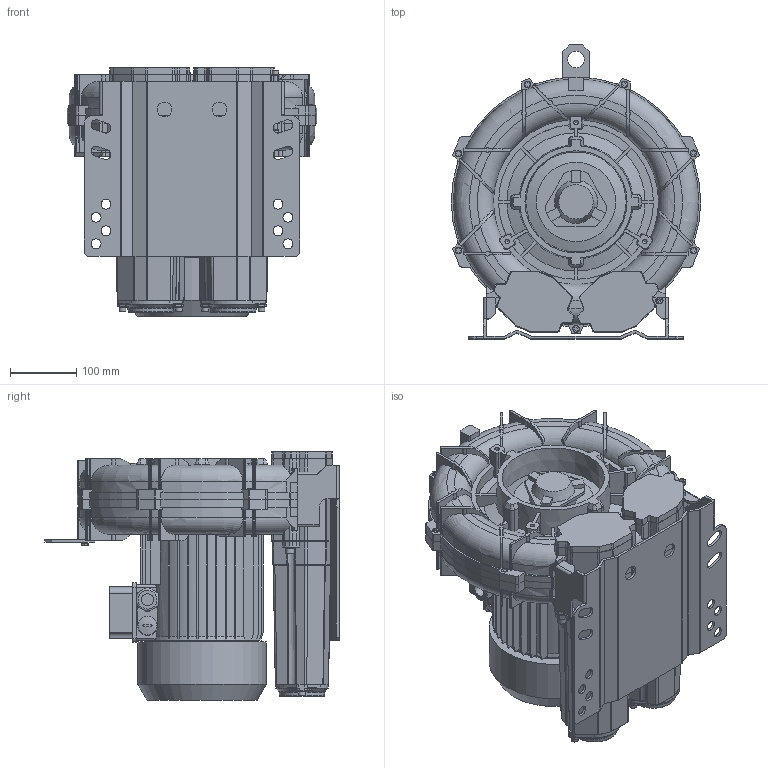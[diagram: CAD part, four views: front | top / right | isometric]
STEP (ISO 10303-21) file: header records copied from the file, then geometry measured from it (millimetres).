
FILE_DESCRIPTION (( 'STEP AP203' ), '1' );
FILE_NAME ('STP-L_e_06_MS_MOR_IE3WR_100_3.0kW-3_25-00.step', '2025-03-03T13:07:18', ( '' ), ( '' ), 'SwSTEP 2.0', 'SolidWorks 2024', '' );
FILE_SCHEMA (( 'CONFIG_CONTROL_DESIGN' ));
Products named in the file (1): STP-L_e_06_MS_MOR_IE3WR_100_3.0kW-3_25-00
Bounding box: 377 x 444.5 x 375.5 mm (x, y, z)
Volume: 19526747.2 mm3; surface area: 1701639.8 mm2
Topology: 72 solids, 72 shells, 3312 faces, 8811 edges, 5639 vertices
Faces by surface type: plane 1630, cylinder 878, cone 375, bspline 223, torus 205, sphere 1
Full cylindrical faces by diameter (mm): 4 x8, 4.917 x8, 5 x9, 6 x18, 6.4 x18, 6.5 x1, 6.8 x3, 7.5 x4, 8 x4, 8.4 x4, 8.5 x4, 10 x36, 13 x8, 15 x8, 18 x2, 20 x1, 21.4 x1, 22 x2, 24 x4, 25 x4, 28 x1, 57 x2, 73 x1, 80 x1, 156 x1, 165 x1, 194 x1
Entity records: 108738 total; most frequent: CARTESIAN_POINT 30311, ORIENTED_EDGE 16604, DIRECTION 15613, EDGE_CURVE 8302, AXIS2_PLACEMENT_3D 5611, VERTEX_POINT 5515, VECTOR 4391, LINE 4391
